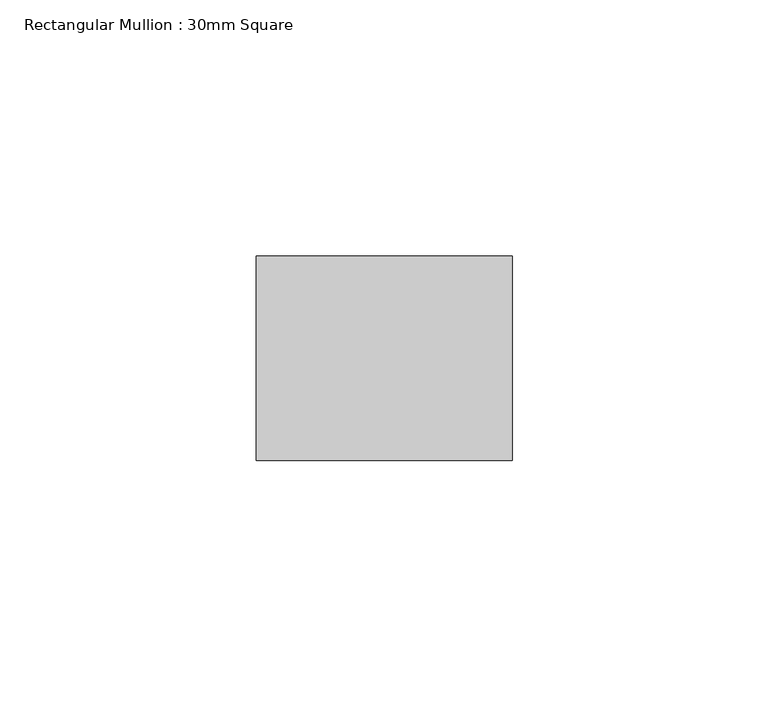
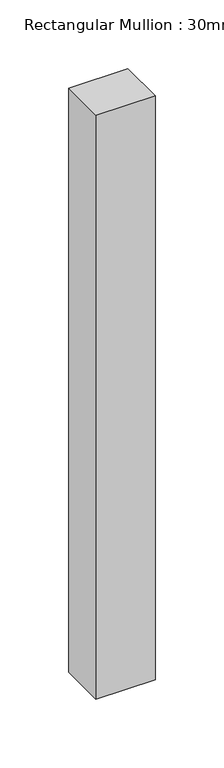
"""IFC4 building model written with IfcOpenShell, lengths in millimetres: member geometry, Rectangular Mullion : 30mm Square."""

from ifc_helpers import new_model, si_unit, frame, origin, place, context, project, spatial, polyline, outline, extrude, source, transform, mapped, element, save


def rectangular_mullion_30mm_square_0cab2742(model_context):
    return source(origin(), model_context, "Body", "SweptSolid", [
        extrude(outline(polyline([(25.0, 20.0), (25.0, -20.0), (-25.0, -20.0), (-25.0, 20.0), (25.0, 20.0)])), frame((0.0, 0.0, -520.0), z_axis=(0.0, 0.0, 1.0), x_axis=(1.0, 0.0, 0.0)), (0.0, 0.0, 1.0), 520.0),
    ])


if __name__ == "__main__":
    model = new_model("IFC4")
    model_context = context("Model", 3, world=origin())
    ifc_project = project(units=[si_unit("LENGTHUNIT", "METRE", prefix="MILLI")], contexts=[model_context])
    site = spatial("IfcSite", under=ifc_project)
    building = spatial("IfcBuilding", under=site)
    placement = place(None, origin())
    rectangular_mullion_30mm_square_shape = rectangular_mullion_30mm_square_0cab2742(model_context)
    element("IfcMember", 1, ObjectType="Rectangular Mullion : 30mm Square", at=placement, inside=building, context=model_context, shape_type="MappedRepresentation", body=[
        mapped(rectangular_mullion_30mm_square_shape, transform((0.0, 0.0, 0.0), x_axis=(1.0, 0.0, 0.0), y_axis=(0.0, 1.0, 0.0), z_axis=(0.0, 0.0, 1.0))),
    ])
    save(model, "model.ifc")
